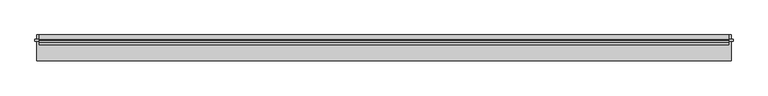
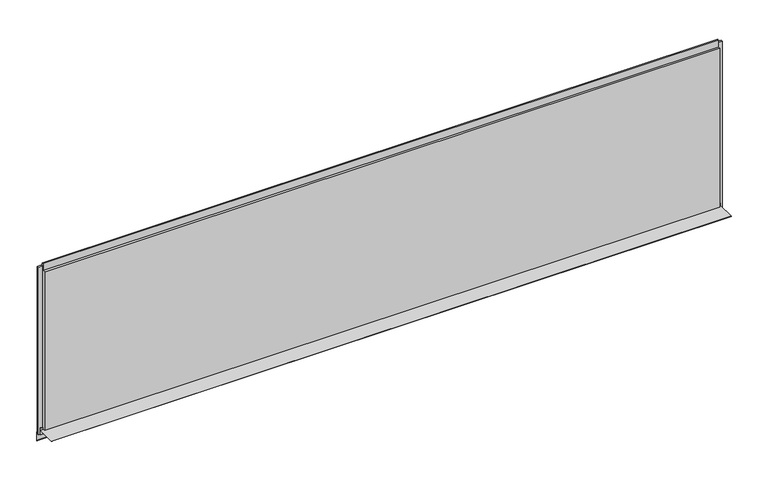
"""IFC4 building model written with IfcOpenShell, lengths in millimetres: plate geometry, Trimo_Qbiss Screen_Normal Panel-HORIZONTAL : HR - B."""

from ifc_helpers import new_model, si_unit, frame, origin, place, context, project, spatial, polyline, outline, extrude, source, transform, mapped, element, save


def plate_66c8b1ed(model_context):
    return source(origin(), model_context, "Body", "SweptSolid", [
        extrude(outline(polyline([(66.7, 14.0835797), (67.5, 14.0835797), (67.5, -23.0), (100.0, -25.8433816), (100.0, -76.0), (87.1509533, -63.1509533), (87.7166388, -62.5852679), (99.2, -74.0686292), (99.2, -26.5764465), (66.7, -23.7330649), (66.7, 1.0), (-32.5, 1.0), (-32.5, 1.8), (66.7, 1.8), (66.7, 14.0835797)])), frame((-1787.5, 0.0, 0.0), z_axis=(1.0, 0.0, 0.0), x_axis=(0.0, 1.0, 0.0)), (0.0, 0.0, 1.0), 3575.0),
        extrude(outline(polyline([(-1778.0, 76.5978162), (-1778.0, 67.8978162), (-1797.0, 67.8978162), (-1797.0, 76.5978162), (-1778.0, 76.5978162)])), frame((0.0, 0.0, -20.0), z_axis=(0.0, 0.0, 1.0), x_axis=(1.0, 0.0, 0.0)), (0.0, 0.0, 1.0), 931.5),
        extrude(outline(polyline([(1778.0, 67.8978162), (1778.0, 76.5978162), (1797.0, 76.5978162), (1797.0, 67.8978162), (1778.0, 67.8978162)])), frame((0.0, 0.0, -20.0), z_axis=(0.0, 0.0, 1.0), x_axis=(1.0, 0.0, 0.0)), (0.0, 0.0, 1.0), 931.5),
        extrude(outline(polyline([(1775.0, 76.0), (1775.0, 71.0), (-1775.0, 71.0), (-1775.0, 76.0), (1775.0, 76.0)])), frame((0.0, 0.0, 890.5), z_axis=(0.0, 0.0, 1.0), x_axis=(1.0, 0.0, 0.0)), (0.0, 0.0, 1.0), 21.0),
        extrude(outline(polyline([(71.0, 889.5), (100.0, 889.5), (100.0, 0.0), (72.0, 0.0), (72.0, 15.5), (62.0, 15.5), (62.0, 7.0), (50.0, 7.0), (50.0, 889.5), (63.0, 889.5), (63.0, 927.0), (71.0, 927.0), (71.0, 889.5)])), frame((-1775.0, 0.0, 0.0), z_axis=(1.0, 0.0, 0.0), x_axis=(0.0, 1.0, 0.0)), (0.0, 0.0, 1.0), 3550.0),
    ])


if __name__ == "__main__":
    model = new_model("IFC4")
    model_context = context("Model", 3, world=origin())
    ifc_project = project(units=[si_unit("LENGTHUNIT", "METRE", prefix="MILLI")], contexts=[model_context])
    site = spatial("IfcSite", under=ifc_project)
    building = spatial("IfcBuilding", under=site)
    placement = place(None, origin())
    plate_shape = plate_66c8b1ed(model_context)
    element("IfcPlate", 1, ObjectType="Trimo_Qbiss Screen_Normal Panel-HORIZONTAL : HR - B", at=placement, inside=building, context=model_context, shape_type="MappedRepresentation", body=[
        mapped(plate_shape, transform((0.0, 0.0, 0.0), x_axis=(1.0, 0.0, 0.0), y_axis=(0.0, 1.0, 0.0), z_axis=(0.0, 0.0, 1.0))),
    ])
    save(model, "model.ifc")
